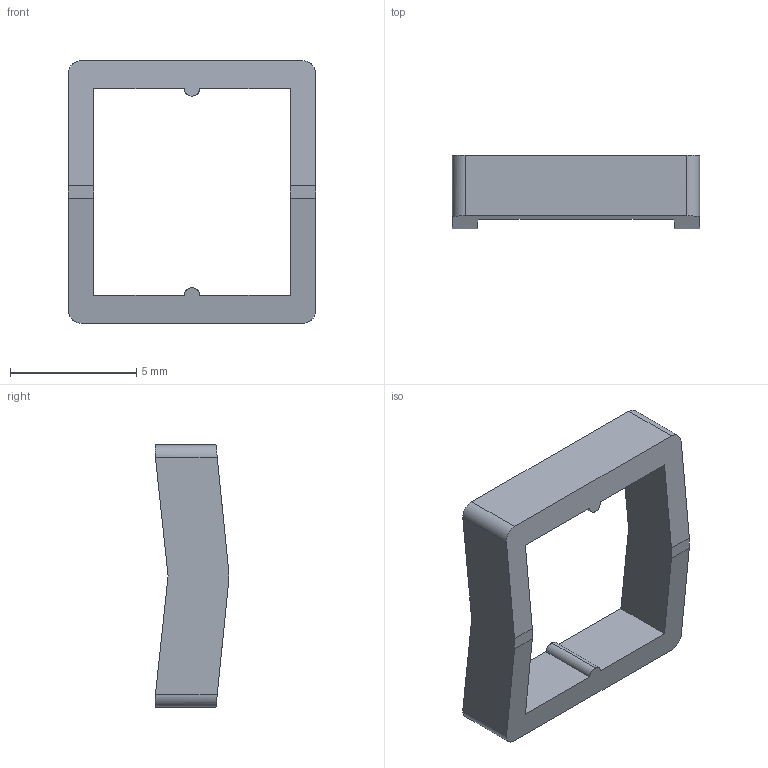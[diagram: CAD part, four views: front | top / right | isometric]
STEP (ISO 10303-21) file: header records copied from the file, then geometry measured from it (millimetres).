
FILE_DESCRIPTION (( 'STEP AP214' ), '1' );
FILE_NAME ('J2NE.step', '2017-05-24T07:37:15', ( 'admin' ), ( '' ), 'SwSTEP 2.0', 'SolidWorks 2014', '' );
FILE_SCHEMA (( 'AUTOMOTIVE_DESIGN' ));
Length unit declared in the file: millimetre
Products named in the file (1): J2NE
Bounding box: 9.8 x 2.9 x 10.4 mm (x, y, z)
Volume: 92.7 mm3; surface area: 251.9 mm2
Topology: 1 solids, 1 shells, 25 faces, 71 edges, 46 vertices
Faces by surface type: plane 18, cylinder 7
Entity records: 835 total; most frequent: CARTESIAN_POINT 173, ORIENTED_EDGE 142, DIRECTION 117, EDGE_CURVE 71, LINE 57, VECTOR 57, VERTEX_POINT 46, AXIS2_PLACEMENT_3D 30
